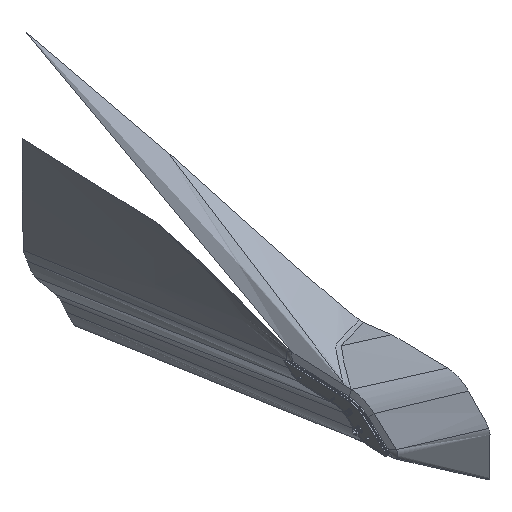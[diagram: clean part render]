
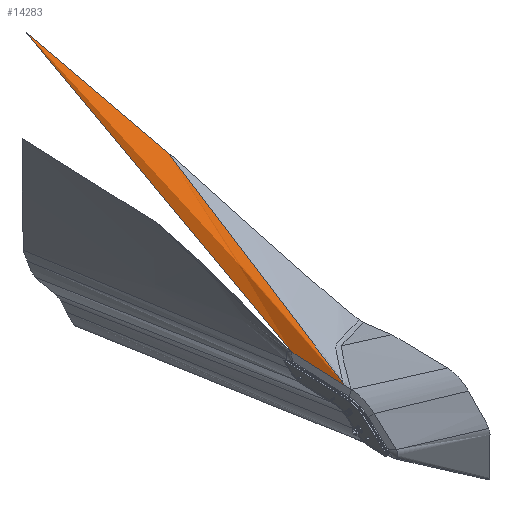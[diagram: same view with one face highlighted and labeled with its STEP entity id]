
A CAD part, isometric view. The second image highlights one B-rep face of the part: STEP entity #14283.
In plain terms, the highlighted free-form (B-spline) face has degree [5, 1] with [9, 2] control points.
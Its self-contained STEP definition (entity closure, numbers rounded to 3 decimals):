
#104=CARTESIAN_POINT('Vertex',(25.,385.258,137.92)) ;
#6701=CARTESIAN_POINT('Vertex',(26.942,193.176,131.894)) ;
#6705=CARTESIAN_POINT('Control Point',(26.942,193.176,131.894)) ;
#6706=CARTESIAN_POINT('Control Point',(26.514,192.405,131.385)) ;
#6707=CARTESIAN_POINT('Control Point',(26.093,191.621,130.857)) ;
#6708=CARTESIAN_POINT('Control Point',(25.595,190.666,130.199)) ;
#6709=CARTESIAN_POINT('Control Point',(25.,189.448,129.371)) ;
#6710=CARTESIAN_POINT('Vertex',(25.,189.448,129.371)) ;
#14064=CARTESIAN_POINT('Control Point',(26.942,193.176,131.894)) ;
#14065=CARTESIAN_POINT('Control Point',(61.553,359.639,181.226)) ;
#14066=CARTESIAN_POINT('Control Point',(96.165,526.102,230.557)) ;
#14067=CARTESIAN_POINT('Control Point',(130.777,692.565,279.888)) ;
#14068=CARTESIAN_POINT('Control Point',(165.388,859.029,329.219)) ;
#14069=CARTESIAN_POINT('Control Point',(200.,1025.492,378.55)) ;
#14070=CARTESIAN_POINT('Vertex',(200.,1025.492,378.55)) ;
#14179=CARTESIAN_POINT('Control Point',(25.,385.258,137.92)) ;
#14180=CARTESIAN_POINT('Control Point',(444.57,3183.514,1007.895)) ;
#14181=CARTESIAN_POINT('Control Point',(25.,355.087,136.603)) ;
#14182=CARTESIAN_POINT('Control Point',(447.471,3183.106,1007.895)) ;
#14183=CARTESIAN_POINT('Control Point',(25.,323.289,135.215)) ;
#14184=CARTESIAN_POINT('Control Point',(455.796,3181.933,1007.895)) ;
#14185=CARTESIAN_POINT('Control Point',(25.,298.758,134.144)) ;
#14186=CARTESIAN_POINT('Control Point',(468.553,3180.105,1007.895)) ;
#14187=CARTESIAN_POINT('Control Point',(25.,240.195,131.587)) ;
#14188=CARTESIAN_POINT('Control Point',(504.653,3174.645,1007.895)) ;
#14189=CARTESIAN_POINT('Control Point',(25.,199.993,129.832)) ;
#14190=CARTESIAN_POINT('Control Point',(554.613,3166.178,1007.895)) ;
#14191=CARTESIAN_POINT('Control Point',(25.,191.004,129.439)) ;
#14192=CARTESIAN_POINT('Control Point',(579.78,3161.51,1007.895)) ;
#14193=CARTESIAN_POINT('Control Point',(25.,187.099,129.269)) ;
#14194=CARTESIAN_POINT('Control Point',(606.709,3156.423,1007.895)) ;
#14195=CARTESIAN_POINT('Control Point',(25.,183.835,129.126)) ;
#14196=CARTESIAN_POINT('Control Point',(641.559,3149.148,1007.895)) ;
#14198=CARTESIAN_POINT('Control Point',(25.,385.258,137.92)) ;
#14199=CARTESIAN_POINT('Control Point',(60.,618.685,210.493)) ;
#14200=CARTESIAN_POINT('Control Point',(95.,852.111,283.065)) ;
#14201=CARTESIAN_POINT('Control Point',(130.,1085.538,355.637)) ;
#14202=CARTESIAN_POINT('Control Point',(165.,1318.965,428.209)) ;
#14203=CARTESIAN_POINT('Control Point',(200.,1552.392,500.781)) ;
#14204=CARTESIAN_POINT('Vertex',(200.,1552.392,500.781)) ;
#14208=CARTESIAN_POINT('Control Point',(25.,385.258,137.92)) ;
#14209=CARTESIAN_POINT('Control Point',(25.,380.804,137.726)) ;
#14210=CARTESIAN_POINT('Control Point',(25.,376.314,137.53)) ;
#14211=CARTESIAN_POINT('Control Point',(25.,371.818,137.334)) ;
#14212=CARTESIAN_POINT('Control Point',(25.,367.335,137.138)) ;
#14213=CARTESIAN_POINT('Control Point',(25.,362.878,136.943)) ;
#14214=CARTESIAN_POINT('Vertex',(25.,362.878,136.943)) ;
#14218=CARTESIAN_POINT('Control Point',(25.,362.878,136.943)) ;
#14219=CARTESIAN_POINT('Control Point',(25.,337.144,135.82)) ;
#14220=CARTESIAN_POINT('Control Point',(25.,312.291,134.735)) ;
#14221=CARTESIAN_POINT('Control Point',(25.,290.904,133.801)) ;
#14222=CARTESIAN_POINT('Control Point',(25.,245.64,131.825)) ;
#14223=CARTESIAN_POINT('Control Point',(25.,211.826,130.348)) ;
#14224=CARTESIAN_POINT('Control Point',(25.,200.631,129.859)) ;
#14225=CARTESIAN_POINT('Control Point',(25.,193.821,129.562)) ;
#14226=CARTESIAN_POINT('Control Point',(25.,189.448,129.371)) ;
#14229=CARTESIAN_POINT('Control Point',(200.,1552.392,500.781)) ;
#14230=CARTESIAN_POINT('Control Point',(200.,1550.189,500.502)) ;
#14231=CARTESIAN_POINT('Control Point',(200.,1547.958,500.2)) ;
#14232=CARTESIAN_POINT('Control Point',(200.,1545.71,499.88)) ;
#14233=CARTESIAN_POINT('Control Point',(200.,1540.579,499.119)) ;
#14234=CARTESIAN_POINT('Control Point',(200.,1535.401,498.292)) ;
#14235=CARTESIAN_POINT('Control Point',(200.,1532.501,497.813)) ;
#14236=CARTESIAN_POINT('Control Point',(200.,1525.88,496.69)) ;
#14237=CARTESIAN_POINT('Control Point',(200.,1519.248,495.503)) ;
#14238=CARTESIAN_POINT('Control Point',(200.,1515.529,494.822)) ;
#14239=CARTESIAN_POINT('Control Point',(200.,1507.072,493.242)) ;
#14240=CARTESIAN_POINT('Control Point',(200.,1498.632,491.602)) ;
#14241=CARTESIAN_POINT('Control Point',(200.,1493.912,490.668)) ;
#14242=CARTESIAN_POINT('Control Point',(200.,1483.175,488.513)) ;
#14243=CARTESIAN_POINT('Control Point',(200.,1472.474,486.302)) ;
#14244=CARTESIAN_POINT('Control Point',(200.,1466.485,485.048)) ;
#14245=CARTESIAN_POINT('Control Point',(200.,1449.672,481.489)) ;
#14246=CARTESIAN_POINT('Control Point',(200.,1432.924,477.851)) ;
#14247=CARTESIAN_POINT('Control Point',(200.,1422.173,475.488)) ;
#14248=CARTESIAN_POINT('Control Point',(200.,1404.237,471.513)) ;
#14249=CARTESIAN_POINT('Control Point',(200.,1386.335,467.5)) ;
#14250=CARTESIAN_POINT('Control Point',(200.,1379.172,465.888)) ;
#14251=CARTESIAN_POINT('Control Point',(200.,1362.966,462.229)) ;
#14252=CARTESIAN_POINT('Control Point',(200.,1346.785,458.549)) ;
#14253=CARTESIAN_POINT('Control Point',(200.,1337.767,456.492)) ;
#14254=CARTESIAN_POINT('Control Point',(200.,1323.451,453.212)) ;
#14255=CARTESIAN_POINT('Control Point',(200.,1309.176,449.919)) ;
#14256=CARTESIAN_POINT('Control Point',(200.,1303.895,448.697)) ;
#14257=CARTESIAN_POINT('Control Point',(200.,1288.46,445.117)) ;
#14258=CARTESIAN_POINT('Control Point',(200.,1273.092,441.524)) ;
#14259=CARTESIAN_POINT('Control Point',(200.,1263.006,439.153)) ;
#14260=CARTESIAN_POINT('Control Point',(200.,1235.754,432.708)) ;
#14261=CARTESIAN_POINT('Control Point',(200.,1208.826,426.227)) ;
#14262=CARTESIAN_POINT('Control Point',(200.,1191.96,422.115)) ;
#14263=CARTESIAN_POINT('Control Point',(200.,1165.377,415.533)) ;
#14264=CARTESIAN_POINT('Control Point',(200.,1139.302,408.901)) ;
#14265=CARTESIAN_POINT('Control Point',(200.,1129.64,406.418)) ;
#14266=CARTESIAN_POINT('Control Point',(200.,1108.54,400.939)) ;
#14267=CARTESIAN_POINT('Control Point',(200.,1087.737,395.422)) ;
#14268=CARTESIAN_POINT('Control Point',(200.,1076.482,392.407)) ;
#14269=CARTESIAN_POINT('Control Point',(200.,1059.531,387.829)) ;
#14270=CARTESIAN_POINT('Control Point',(200.,1042.631,383.229)) ;
#14271=CARTESIAN_POINT('Control Point',(200.,1036.919,381.672)) ;
#14272=CARTESIAN_POINT('Control Point',(200.,1031.207,380.112)) ;
#14273=CARTESIAN_POINT('Control Point',(200.,1025.492,378.55)) ;
#14276=ORIENTED_EDGE('',*,*,#14206,.F.) ;
#14277=ORIENTED_EDGE('',*,*,#14216,.T.) ;
#14278=ORIENTED_EDGE('',*,*,#14227,.T.) ;
#14279=ORIENTED_EDGE('',*,*,#6712,.F.) ;
#14280=ORIENTED_EDGE('',*,*,#14072,.T.) ;
#14281=ORIENTED_EDGE('',*,*,#14274,.F.) ;
#14283=ADVANCED_FACE('Geometric Visibility Cone / LH+RH / Direction Indicator',(#14282),#14178,.T.) ;
#6704=B_SPLINE_CURVE_WITH_KNOTS('',4,(#6705,#6706,#6707,#6708,#6709),.UNSPECIFIED.,.F.,.U.,(5,5),(0.,35.852),.UNSPECIFIED.) ;
#14063=B_SPLINE_CURVE_WITH_KNOTS('',5,(#14064,#14065,#14066,#14067,#14068,#14069),.UNSPECIFIED.,.F.,.U.,(6,6),(9.666,870.921),.UNSPECIFIED.) ;
#14197=B_SPLINE_CURVE_WITH_KNOTS('',5,(#14198,#14199,#14200,#14201,#14202,#14203),.UNSPECIFIED.,.F.,.U.,(6,6),(0.,1279.816),.UNSPECIFIED.) ;
#14207=B_SPLINE_CURVE_WITH_KNOTS('',5,(#14208,#14209,#14210,#14211,#14212,#14213),.UNSPECIFIED.,.F.,.U.,(6,6),(0.,15.836),.UNSPECIFIED.) ;
#14217=B_SPLINE_CURVE_WITH_KNOTS('',5,(#14218,#14219,#14220,#14221,#14222,#14223,#14224,#14225,#14226),.UNSPECIFIED.,.F.,.U.,(6,3,6),(15.836,107.272,200.364),.UNSPECIFIED.) ;
#14228=B_SPLINE_CURVE_WITH_KNOTS('',5,(#14229,#14230,#14231,#14232,#14233,#14234,#14235,#14236,#14237,#14238,#14239,#14240,#14241,#14242,#14243,#14244,#14245,#14246,#14247,#14248,#14249,#14250,#14251,#14252,#14253,#14254,#14255,#14256,#14257,#14258,#14259,#14260,#14261,#14262,#14263,#14264,#14265,#14266,#14267,#14268,#14269,#14270,#14271,#14272,#14273),.UNSPECIFIED.,.F.,.U.,(6,3,3,3,3,3,3,3,3,3,3,3,3,3,6),(0.002,14.873,33.729,57.833,88.548,127.765,198.775,246.188,306.112,341.368,409.286,525.62,594.962,678.093,720.559),.UNSPECIFIED.) ;
#14178=B_SPLINE_SURFACE_WITH_KNOTS('',5,1,((#14179,#14180),(#14181,#14182),(#14183,#14184),(#14185,#14186),(#14187,#14188),(#14189,#14190),(#14191,#14192),(#14193,#14194),(#14195,#14196)),.UNSPECIFIED.,.F.,.F.,.U.,(6,3,6),(2,2),(0.,107.272,233.668),(0.,3068.416),.UNSPECIFIED.) ;
#6712=EDGE_CURVE('',#6702,#6711,#6704,.T.) ;
#14072=EDGE_CURVE('',#6702,#14071,#14063,.T.) ;
#14206=EDGE_CURVE('',#105,#14205,#14197,.T.) ;
#14216=EDGE_CURVE('',#105,#14215,#14207,.T.) ;
#14227=EDGE_CURVE('',#14215,#6711,#14217,.T.) ;
#14274=EDGE_CURVE('',#14205,#14071,#14228,.T.) ;
#14275=EDGE_LOOP('',(#14276,#14277,#14278,#14279,#14280,#14281)) ;
#14282=FACE_OUTER_BOUND('',#14275,.T.) ;
#105=VERTEX_POINT('',#104) ;
#6702=VERTEX_POINT('',#6701) ;
#6711=VERTEX_POINT('',#6710) ;
#14071=VERTEX_POINT('',#14070) ;
#14205=VERTEX_POINT('',#14204) ;
#14215=VERTEX_POINT('',#14214) ;
